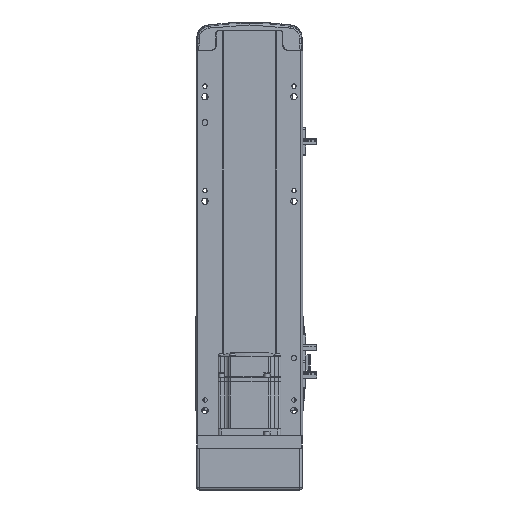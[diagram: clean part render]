
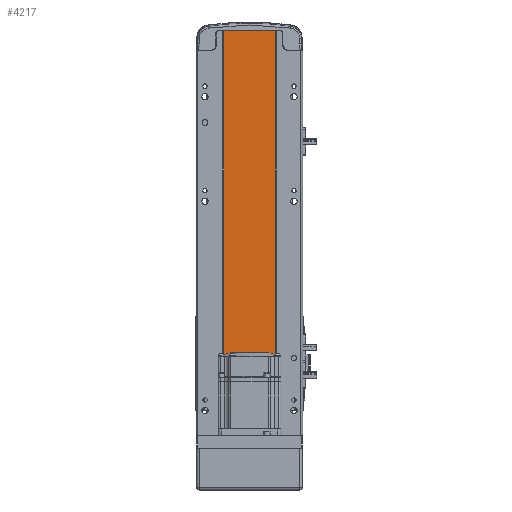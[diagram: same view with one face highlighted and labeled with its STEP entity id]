
A CAD part, front view. The second image highlights one B-rep face of the part: STEP entity #4217.
In plain terms, the highlighted planar face has unit normal (0, -1, 0).
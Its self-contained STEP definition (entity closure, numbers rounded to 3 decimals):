
#1159 = CARTESIAN_POINT ( 'NONE',  ( 24.5, 2., 387. ) ) ;
#1913 = ORIENTED_EDGE ( 'NONE', *, *, #51711, .F. ) ;
#2083 = DIRECTION ( 'NONE',  ( 1., 0., 0. ) ) ;
#2799 = DIRECTION ( 'NONE',  ( 0., 0., -1. ) ) ;
#4217 = ADVANCED_FACE ( 'NONE', ( #18046 ), #46840, .F. ) ;
#6011 = CARTESIAN_POINT ( 'NONE',  ( 0., 2., 387. ) ) ;
#6191 = EDGE_LOOP ( 'NONE', ( #37797, #26319, #1913, #22498 ) ) ;
#6986 = CARTESIAN_POINT ( 'NONE',  ( -24.5, 2., 387. ) ) ;
#10269 = VERTEX_POINT ( 'NONE', #1159 ) ;
#10311 = AXIS2_PLACEMENT_3D ( 'NONE', #6011, #10556, #42314 ) ;
#10504 = CARTESIAN_POINT ( 'NONE',  ( -24.5, 2., 387. ) ) ;
#10556 = DIRECTION ( 'NONE',  ( 0., 1., 0. ) ) ;
#11320 = CARTESIAN_POINT ( 'NONE',  ( 24.5, 2., 0. ) ) ;
#11923 = VECTOR ( 'NONE', #2799, 1000. ) ;
#13342 = LINE ( 'NONE', #10504, #11923 ) ;
#15764 = DIRECTION ( 'NONE',  ( 1., 0., 0. ) ) ;
#17697 = VECTOR ( 'NONE', #2083, 1000. ) ;
#18046 = FACE_OUTER_BOUND ( 'NONE', #6191, .T. ) ;
#19062 = DIRECTION ( 'NONE',  ( 0., 0., -1. ) ) ;
#20846 = LINE ( 'NONE', #34010, #55601 ) ;
#22498 = ORIENTED_EDGE ( 'NONE', *, *, #27071, .T. ) ;
#22969 = EDGE_CURVE ( 'NONE', #35867, #24752, #20846, .T. ) ;
#24752 = VERTEX_POINT ( 'NONE', #11320 ) ;
#26319 = ORIENTED_EDGE ( 'NONE', *, *, #45835, .F. ) ;
#26923 = LINE ( 'NONE', #6986, #17697 ) ;
#27071 = EDGE_CURVE ( 'NONE', #53013, #35867, #13342, .T. ) ;
#34010 = CARTESIAN_POINT ( 'NONE',  ( 0., 2., 0. ) ) ;
#35867 = VERTEX_POINT ( 'NONE', #48541 ) ;
#37797 = ORIENTED_EDGE ( 'NONE', *, *, #22969, .T. ) ;
#42314 = DIRECTION ( 'NONE',  ( 0., 0., 1. ) ) ;
#45835 = EDGE_CURVE ( 'NONE', #10269, #24752, #49248, .T. ) ;
#46840 = PLANE ( 'NONE',  #10311 ) ;
#47990 = CARTESIAN_POINT ( 'NONE',  ( -24.5, 2., 387. ) ) ;
#48541 = CARTESIAN_POINT ( 'NONE',  ( -24.5, 2., 0. ) ) ;
#49248 = LINE ( 'NONE', #55009, #54930 ) ;
#51711 = EDGE_CURVE ( 'NONE', #53013, #10269, #26923, .T. ) ;
#53013 = VERTEX_POINT ( 'NONE', #47990 ) ;
#54930 = VECTOR ( 'NONE', #19062, 1000. ) ;
#55009 = CARTESIAN_POINT ( 'NONE',  ( 24.5, 2., 387. ) ) ;
#55601 = VECTOR ( 'NONE', #15764, 1000. ) ;
